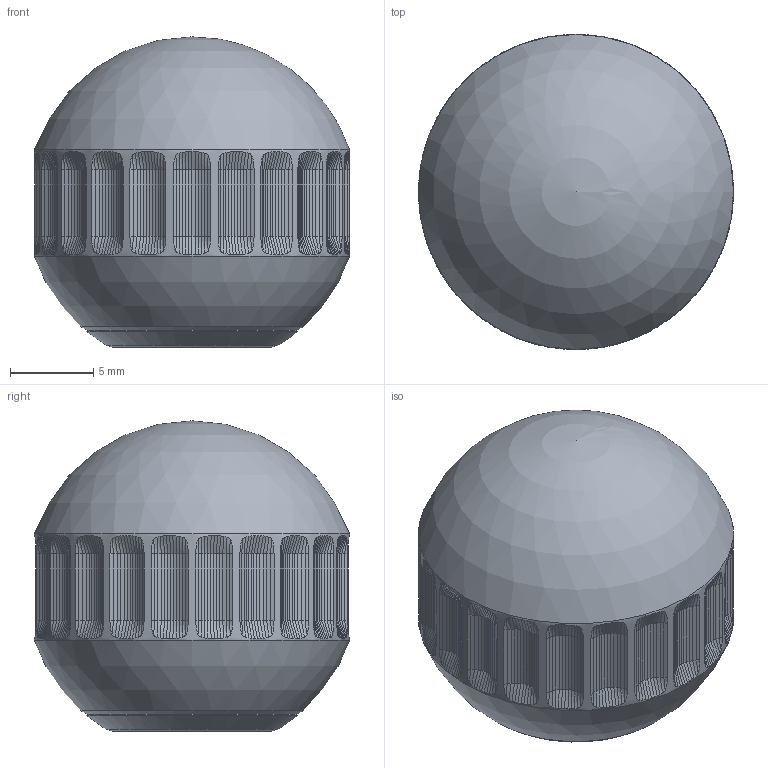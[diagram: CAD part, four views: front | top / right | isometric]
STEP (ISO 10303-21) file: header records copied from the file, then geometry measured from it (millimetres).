
FILE_DESCRIPTION(('Open CASCADE Model'),'2;1');
FILE_NAME('RL-BALL-knob-20','2026-10-19T21:25:54',('Author'),( 'Open CASCADE'),'Open CASCADE STEP processor 8.0','build123d', 'Unknown');
FILE_SCHEMA(('AUTOMOTIVE_DESIGN { 1 0 10303 214 1 1 1 1 }'));
Length unit declared in the file: millimetre
Products named in the file (2): RL-BALL-knob-20; brass_RL-BALL20__k
Assembly tree (1 placements, depth 2):
  RL-BALL-knob-20
    brass_RL-BALL20__k
Bounding box: 18.95 x 18.95 x 18.66 mm (x, y, z)
Volume: 3804.6 mm3; surface area: 1383.3 mm2
Topology: 1 solids, 1 shells, 804 faces, 1847 edges, 1068 vertices
Faces by surface type: bspline 529, plane 267, sphere 3, cylinder 3, cone 2
Full cylindrical faces by diameter (mm): 3.3 x1, 5.1 x1, 18.948 x1
Entity records: 55299 total; most frequent: CARTESIAN_POINT 24844, ORIENTED_EDGE 3692, PCURVE 3692, DEFINITIONAL_REPRESENTATION 3692, B_SPLINE_CURVE_WITH_KNOTS 3065, DIRECTION 3039, LINE 2457, VECTOR 2457
